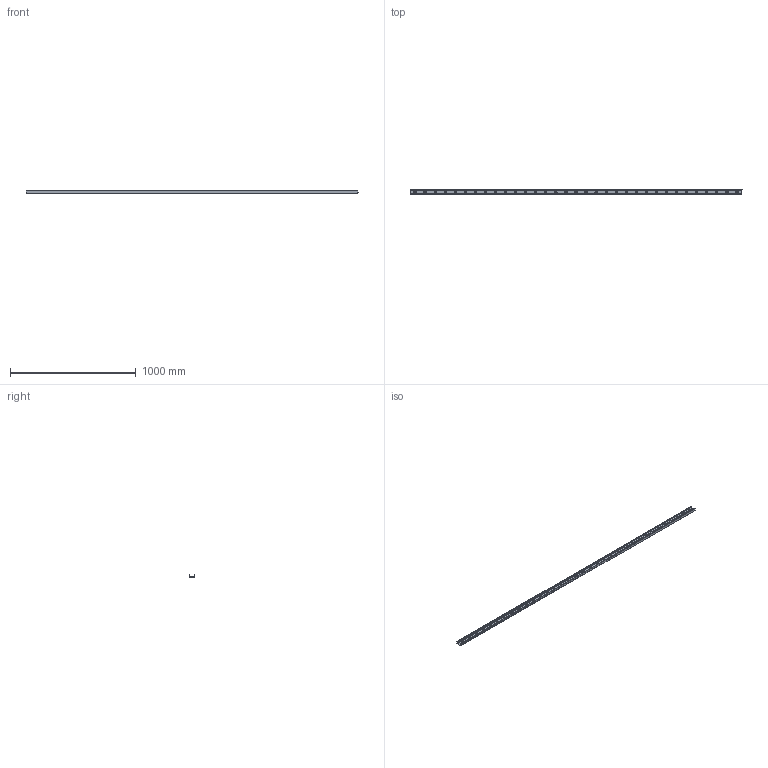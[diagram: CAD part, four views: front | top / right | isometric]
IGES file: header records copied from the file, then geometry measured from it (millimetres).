
Start section: SolidWorks IGES file using analytic representation for surfaces
Global section: file name: C:\Users\IanO\Desktop\43\L1943.ULC43_v2_20180121_IGES\L1943.ULC43-2640.igs; native system: SolidWorks 2017; preprocessor: SolidWorks 2017; author: IanO; date: 190121.085046; units: millimetre
Bounding box: 2640 x 43 x 21 mm (x, y, z)
Surface area: 414080.6 mm2 (no closed solid volume)
Topology: 0 solids, 0 shells, 191 faces, 5046 edges, 5046 vertices
Faces by surface type: revolution 145, bspline 46
